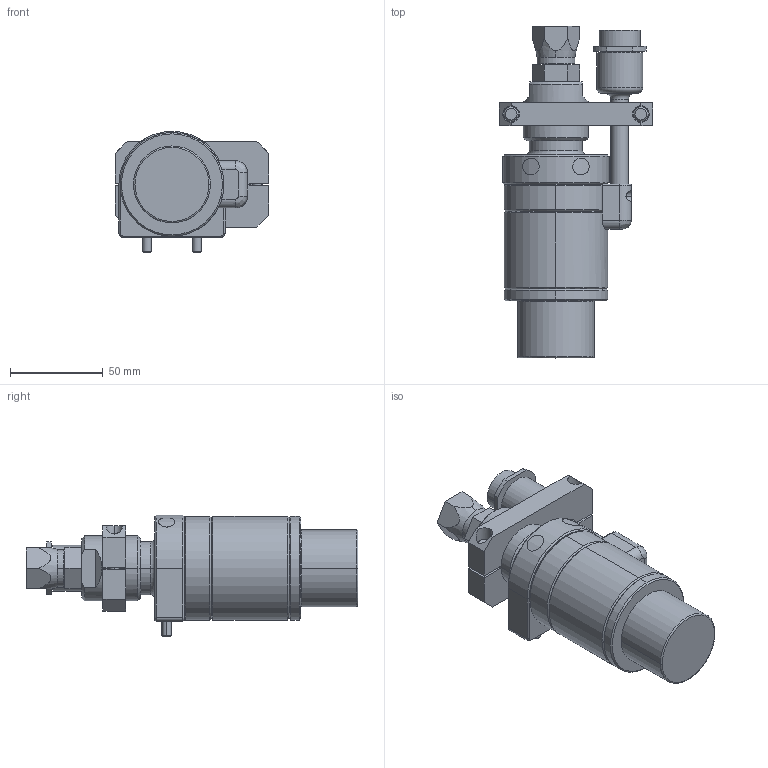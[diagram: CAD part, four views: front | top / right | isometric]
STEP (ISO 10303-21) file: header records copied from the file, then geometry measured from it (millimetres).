
FILE_DESCRIPTION((''),'2;1');
FILE_NAME('289261-EN-G_PRT','2019-12-31T21:25:24',('qusrh3'),(''),'CREO PARAMETRIC BY PTC INC, 2019030','CREO PARAMETRIC BY PTC INC, 2019030','');
FILE_SCHEMA(('CONFIG_CONTROL_DESIGN'));
Length unit declared in the file: inch
Products named in the file (1): 289261-EN-G_PRT
Bounding box: 82.55 x 178.69 x 65.35 mm (x, y, z)
Surface area: 60360.4 mm2 (no closed solid volume)
Topology: 0 solids, 28 shells, 186 faces, 451 edges, 286 vertices
Faces by surface type: plane 77, cylinder 66, cone 31, torus 10, bspline 2
Entity records: 5763 total; most frequent: CARTESIAN_POINT 1381, DIRECTION 970, ORIENTED_EDGE 818, EDGE_CURVE 451, AXIS2_PLACEMENT_3D 370, VERTEX_POINT 286, VECTOR 230, LINE 230
